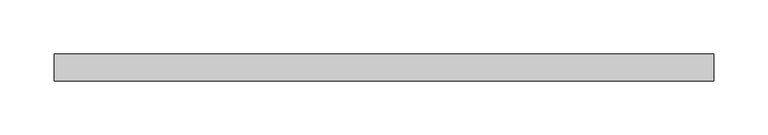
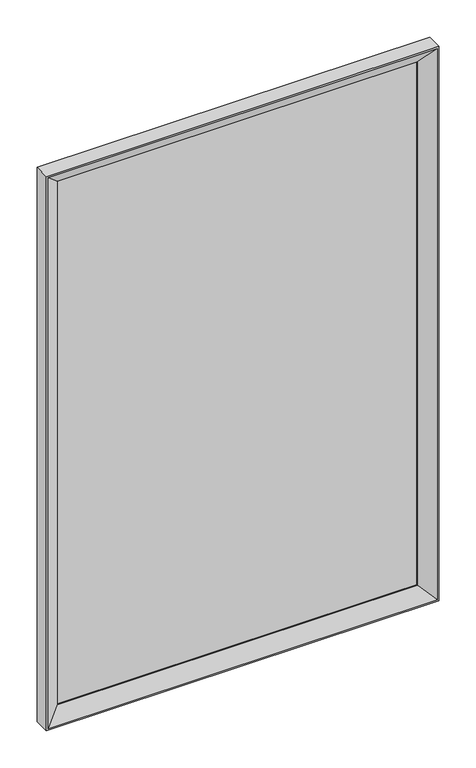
"""IFC4 building model written with IfcOpenShell, lengths in millimetres: proxy geometry, Mirror_Metlam_Framed : 610w x 25d x 910h (ML771_4)."""

import ifcopenshell
import ifcopenshell.guid

model = None  # the IFC model being written
_history = None  # IfcOwnerHistory: only IFC2X3 demands one
_inside = {}  # id of a spatial element -> (the spatial element, [elements in it])
_under = {}  # id of a project, library or spatial element -> (it, [spatial elements below it])
_declared = {}  # id of a project -> (the project, [libraries it declares])
_typed = {}  # id of a type object -> (the type object, [elements of that type])
_made_of = {}  # id of a material, layer set ... -> (it, [elements and type objects made of it])


def new_model(schema):
    """Start an empty IFC model of exactly this schema.

    Asked for "IFC4X3", IfcOpenShell would pick the latest addendum, in which some entities
    have other attributes; the version numbers below select the first issue.
    IFC2X3 requires an IfcOwnerHistory on every rooted entity: one is made here for all.
    """
    global model, _history
    if schema == "IFC4X3":
        model = ifcopenshell.file(schema_version=(4, 3, 0, 0))
    else:
        model = ifcopenshell.file(schema=schema)
    _inside.clear()
    _under.clear()
    _declared.clear()
    _typed.clear()
    _made_of.clear()
    _history = None
    if model.schema == "IFC2X3":
        org = make("IfcOrganization", Name="unknown")
        user = make(
            "IfcPersonAndOrganization",
            ThePerson=make("IfcPerson", FamilyName="unknown"),
            TheOrganization=org,
        )
        app = make(
            "IfcApplication",
            ApplicationDeveloper=org,
            Version="unknown",
            ApplicationFullName="unknown",
            ApplicationIdentifier="unknown",
        )
        _history = make(
            "IfcOwnerHistory",
            OwningUser=user,
            OwningApplication=app,
            ChangeAction="ADDED",
            CreationDate=0,
        )
    return model


def make(cls, **values):
    """One entity of the class cls with the attributes given. An attribute that is None is left unset."""
    return model.create_entity(
        cls, **{name: value for name, value in values.items() if value is not None}
    )


def rooted(cls, **values):
    """An entity with a GlobalId (a new one), such as an element, a storey or a relation."""
    return make(cls, GlobalId=ifcopenshell.guid.new(), OwnerHistory=_history, **values)


def si_unit(unit_type, name, prefix=None):
    """IfcSIUnit, for example si_unit("LENGTHUNIT", "METRE", prefix="MILLI")."""
    return make("IfcSIUnit", UnitType=unit_type, Prefix=prefix, Name=name)


def assignment(units):
    """IfcUnitAssignment: the units of a project."""
    return None if units is None else make("IfcUnitAssignment", Units=units)


def point(xyz):
    """IfcCartesianPoint."""
    return None if xyz is None else make("IfcCartesianPoint", Coordinates=xyz)


def direction(xyz):
    """IfcDirection."""
    return None if xyz is None else make("IfcDirection", DirectionRatios=xyz)


def frame(location, z_axis=None, x_axis=None):
    """IfcAxis2Placement3D, a coordinate frame: its origin and axes. An axis left out is left unset."""
    return make(
        "IfcAxis2Placement3D",
        Location=point(location),
        Axis=direction(z_axis),
        RefDirection=direction(x_axis),
    )


def origin():
    """The frame at (0, 0, 0) with its axes left unset."""
    return frame((0.0, 0.0, 0.0))


def place(relative_to, where):
    """IfcLocalPlacement: puts the frame where relative to a parent placement (None: the world)."""
    return make(
        "IfcLocalPlacement", PlacementRelTo=relative_to, RelativePlacement=where
    )


def context(
    kind, dimensions, precision=None, world=None, true_north=None, identifier=None
):
    """IfcGeometricRepresentationContext, for example the 3D "Model" context."""
    return make(
        "IfcGeometricRepresentationContext",
        ContextIdentifier=identifier,
        ContextType=kind,
        CoordinateSpaceDimension=dimensions,
        Precision=precision,
        WorldCoordinateSystem=world,
        TrueNorth=true_north,
    )


def project(units=None, contexts=None):
    """IfcProject with its units and contexts."""
    return rooted(
        "IfcProject",
        Name="project",
        RepresentationContexts=contexts,
        UnitsInContext=assignment(units),
    )


def spatial(cls, under=None, at=None, **own):
    """A site, building, storey or space (cls), placed at a placement, below another one or the project."""
    s = rooted(cls, ObjectPlacement=at, **own)
    if under is not None:
        _under.setdefault(under.id(), (under, []))[1].append(s)
    return s


def polyline(points):
    """IfcPolyline through the points."""
    return make("IfcPolyline", Points=[point(p) for p in points])


def outline(outer, holes=None, kind="AREA"):
    """IfcArbitraryClosedProfileDef: a profile drawn as a closed curve; with holes, ...WithVoids."""
    if holes is None:
        return make("IfcArbitraryClosedProfileDef", ProfileType=kind, OuterCurve=outer)
    return make(
        "IfcArbitraryProfileDefWithVoids",
        ProfileType=kind,
        OuterCurve=outer,
        InnerCurves=holes,
    )


def extrude(swept, where, along, depth):
    """IfcExtrudedAreaSolid: the profile swept, set in the frame where, extruded along a direction by depth."""
    return make(
        "IfcExtrudedAreaSolid",
        SweptArea=swept,
        Position=where,
        ExtrudedDirection=direction(along),
        Depth=depth,
    )


def faces_of(points, faces, orient=None, outer=None):
    """IfcFace entities. A face is a list of loops; a loop is a list of indices into points, from 0.

    orient and outer hold one flag for each loop. By default every Orientation is true, the
    first loop of a face is its IfcFaceOuterBound and the others are IfcFaceBound.
    """
    made = []
    for i, loops in enumerate(faces):
        bounds = []
        for j, loop in enumerate(loops):
            is_outer = j == 0 if outer is None else outer[i][j]
            bounds.append(
                make(
                    "IfcFaceOuterBound" if is_outer else "IfcFaceBound",
                    Bound=make("IfcPolyLoop", Polygon=[points[k] for k in loop]),
                    Orientation=True if orient is None else orient[i][j],
                )
            )
        made.append(make("IfcFace", Bounds=bounds))
    return made


def faceted_brep(points, faces, orient=None, outer=None, voids=None):
    """IfcFacetedBrep: a solid bounded by flat faces; with voids (closed shells), ...WithVoids."""
    shared = [point(p) for p in points]
    hull = make("IfcClosedShell", CfsFaces=faces_of(shared, faces, orient, outer))
    if voids is None:
        return make("IfcFacetedBrep", Outer=hull)
    return make(
        "IfcFacetedBrepWithVoids",
        Outer=hull,
        Voids=[
            make(cls, CfsFaces=faces_of(shared, fs, o, b)) for cls, fs, o, b in voids
        ],
    )


def shape(context_of_items, identifier, shape_type, items):
    """IfcShapeRepresentation: the items that make up one representation, for example the "Body"."""
    return make(
        "IfcShapeRepresentation",
        ContextOfItems=context_of_items,
        RepresentationIdentifier=identifier,
        RepresentationType=shape_type,
        Items=items,
    )


def source(mapping_origin, context_of_items, identifier, shape_type, items):
    """IfcRepresentationMap: a shape defined once, which mapped items show again and again."""
    return make(
        "IfcRepresentationMap",
        MappingOrigin=mapping_origin,
        MappedRepresentation=shape(context_of_items, identifier, shape_type, items),
    )


def transform(
    local_origin,
    x_axis=None,
    y_axis=None,
    z_axis=None,
    scale=None,
    scale2=None,
    scale3=None,
    uniform=True,
):
    """IfcCartesianTransformationOperator3D, or its non-uniform kind. x_axis, y_axis, z_axis: its Axis1, 2, 3."""
    if uniform:
        return make(
            "IfcCartesianTransformationOperator3D",
            Axis1=direction(x_axis),
            Axis2=direction(y_axis),
            LocalOrigin=point(local_origin),
            Scale=scale,
            Axis3=direction(z_axis),
        )
    return make(
        "IfcCartesianTransformationOperator3DnonUniform",
        Axis1=direction(x_axis),
        Axis2=direction(y_axis),
        LocalOrigin=point(local_origin),
        Scale=scale,
        Axis3=direction(z_axis),
        Scale2=scale2,
        Scale3=scale3,
    )


def mapped(mapping_source, mapping_target):
    """IfcMappedItem: shows the shape of a source again, moved by a transform."""
    return make(
        "IfcMappedItem", MappingSource=mapping_source, MappingTarget=mapping_target
    )


def made_of(thing, what):
    """Note that an element or type object is made of a material, layer set ...; save() writes the relation."""
    if what is not None:
        _made_of.setdefault(what.id(), (what, []))[1].append(thing)
    return thing


def element(
    cls,
    number,
    at=None,
    inside=None,
    cuts=None,
    type_object=None,
    material=None,
    context=None,
    identifier="Body",
    shape_type=None,
    held_by="IfcProductDefinitionShape",
    body=None,
    shapes=None,
    **own,
):
    """One element of the class cls, such as IfcWall. Its Tag is "e" and its number.

    at: its placement. inside: the storey or other place that contains it. cuts: it is an
    opening in that element (IfcRelVoidsElement). A single representation is given by context,
    identifier, shape_type and body (its items); several are given by shapes. held_by: the class
    of the entity that holds the representations. save() writes the other relations.
    """
    e = rooted(cls, Tag="e%d" % number, ObjectPlacement=at, **own)
    if body is not None:
        shapes = [shape(context, identifier, shape_type, body)]
    if shapes is not None:
        e.Representation = make(held_by, Representations=shapes)
    if inside is not None:
        _inside.setdefault(inside.id(), (inside, []))[1].append(e)
    if cuts is not None:
        rooted(
            "IfcRelVoidsElement", RelatingBuildingElement=cuts, RelatedOpeningElement=e
        )
    if type_object is not None:
        _typed.setdefault(type_object.id(), (type_object, []))[1].append(e)
    return made_of(e, material)


def aggregate(whole, parts):
    """IfcRelAggregates: a whole, such as a stair, and the parts it consists of."""
    return rooted("IfcRelAggregates", RelatingObject=whole, RelatedObjects=parts)


def save(model, path):
    """Write the relations noted so far, then the file.

    IfcRelAggregates (storeys below a building ...), IfcRelContainedInSpatialStructure (elements
    in a storey), IfcRelDefinesByType, IfcRelAssociatesMaterial and IfcRelDeclares: one each for
    every whole, place, type object, material and project.
    """
    for whole, parts in _under.values():
        aggregate(whole, parts)
    for where, things in _inside.values():
        rooted(
            "IfcRelContainedInSpatialStructure",
            RelatedElements=things,
            RelatingStructure=where,
        )
    for kind, things in _typed.values():
        rooted("IfcRelDefinesByType", RelatedObjects=things, RelatingType=kind)
    for what, things in _made_of.values():
        rooted("IfcRelAssociatesMaterial", RelatedObjects=things, RelatingMaterial=what)
    for by, libraries in _declared.values():
        rooted("IfcRelDeclares", RelatingContext=by, RelatedDefinitions=libraries)
    model.write(path)


def specialty_equipment_646fb459(model_context):
    return source(origin(), model_context, "Body", "SolidModel", [
        extrude(outline(polyline([(303.0, -2.0), (303.0, -8.0), (-303.0, -8.0), (-303.0, -2.0), (303.0, -2.0)])), frame((0.0, 0.0, 902.0), z_axis=(0.0, 0.0, 1.0), x_axis=(1.0, 0.0, 0.0)), (0.0, 0.0, 1.0), 906.0),
        faceted_brep([(-305.0, -25.0, 1810.0), (-305.0, 0.0, 1810.0), (-305.0, 0.0, 900.0), (-305.0, -25.0, 900.0), (-280.0, 0.0, 1785.0), (-280.0, -2.0, 1785.0), (-280.0, -2.0, 925.0), (-280.0, 0.0, 925.0), (305.0, 0.0, 900.0), (305.0, -25.0, 900.0), (280.0, -2.0, 925.0), (280.0, 0.0, 925.0), (305.0, 0.0, 1810.0), (305.0, -25.0, 1810.0), (280.0, -2.0, 1785.0), (280.0, 0.0, 1785.0), (-302.4054586, -25.0, 1807.4054586), (302.4054586, -25.0, 1807.4054586), (302.4054586, -25.0, 902.5945414), (-302.4054586, -25.0, 902.5945414), (-303.0, -2.0, 1808.0), (-303.0, -23.0, 1808.0), (-303.0, -23.0, 902.0), (-303.0, -2.0, 902.0), (-280.0, -8.0, 1785.0), (-280.0, -8.0, 925.0), (-280.0, -10.3877444, 1785.0), (-280.0, -10.3877444, 925.0), (303.0, -23.0, 902.0), (303.0, -2.0, 902.0), (280.0, -8.0, 925.0), (280.0, -10.3877444, 925.0), (303.0, -23.0, 1808.0), (303.0, -2.0, 1808.0), (280.0, -8.0, 1785.0), (280.0, -10.3877444, 1785.0)], [[[0, 1, 2, 3]], [[4, 5, 6, 7]], [[3, 2, 8, 9]], [[7, 6, 10, 11]], [[9, 8, 12, 13]], [[11, 10, 14, 15]], [[13, 12, 1, 0]], [[1, 12, 8, 2], [7, 11, 15, 4]], [[15, 14, 5, 4]], [[3, 9, 13, 0], [16, 17, 18, 19]], [[20, 21, 22, 23]], [[21, 24, 25, 22]], [[24, 26, 27, 25]], [[26, 16, 19, 27]], [[23, 22, 28, 29]], [[22, 25, 30, 28]], [[25, 27, 31, 30]], [[27, 19, 18, 31]], [[29, 28, 32, 33]], [[28, 30, 34, 32]], [[30, 31, 35, 34]], [[31, 18, 17, 35]], [[23, 29, 33, 20], [5, 14, 10, 6]], [[33, 32, 21, 20]], [[32, 34, 24, 21]], [[34, 35, 26, 24]], [[35, 17, 16, 26]]]),
    ])


if __name__ == "__main__":
    model = new_model("IFC4")
    model_context = context("Model", 3, world=origin())
    ifc_project = project(units=[si_unit("LENGTHUNIT", "METRE", prefix="MILLI")], contexts=[model_context])
    site = spatial("IfcSite", under=ifc_project)
    building = spatial("IfcBuilding", under=site)
    placement = place(None, origin())
    specialty_equipment_shape = specialty_equipment_646fb459(model_context)
    element("IfcBuildingElementProxy", 1, Name="Mirror_Metlam_Framed : 610w x 25d x 910h (ML771_4)", ObjectType="Mirror_Metlam_Framed : 610w x 25d x 910h (ML771_4)", at=placement, inside=building, context=model_context, shape_type="MappedRepresentation", body=[
        mapped(specialty_equipment_shape, transform((0.0, 0.0, 0.0), x_axis=(1.0, 0.0, 0.0), y_axis=(0.0, 1.0, 0.0), z_axis=(0.0, 0.0, 1.0))),
    ])
    save(model, "model.ifc")
